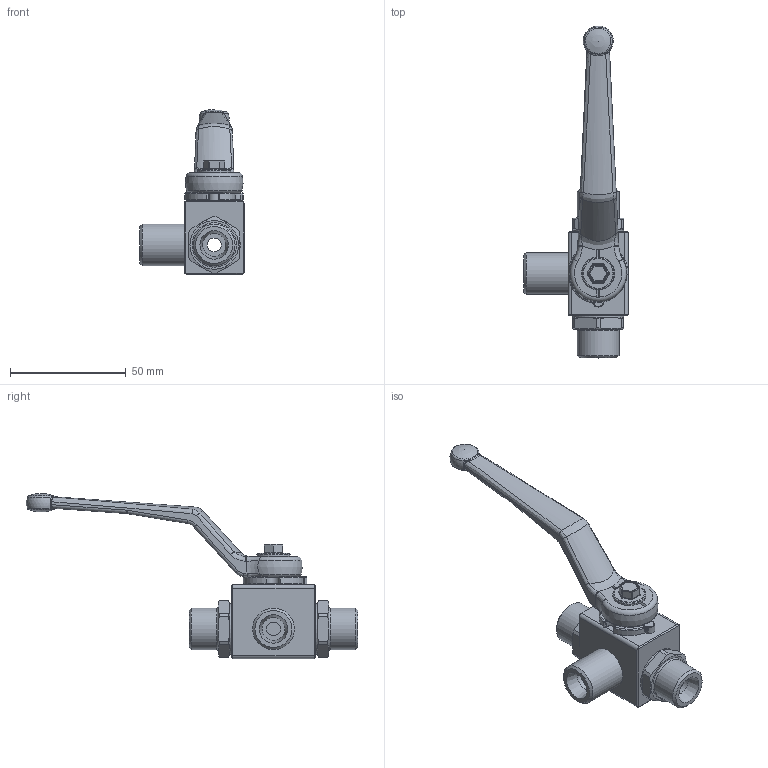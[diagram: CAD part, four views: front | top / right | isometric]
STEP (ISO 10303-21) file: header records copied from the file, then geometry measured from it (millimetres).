
FILE_DESCRIPTION( ( 'Unknown' ), '1' );
FILE_NAME( 'H:/PISTER/3D-MODELLE/BK3 stp/BK3 DN6 10S.stp', 'Unknown', ( 'Unknown' ), ( 'Unknown' ), 'PSStep 14.0', 'Unknown', ' ' );
FILE_SCHEMA( ( 'AUTOMOTIVE_DESIGN { 1 0 10303 214 1 1 1 1 }' ) );
Length unit declared in the file: millimetre
Products named in the file (10): Assem1; 06-008-059-oa7; 09-09-002; 58-28740-07-oa8; Griff_SW9; 58-0933-133; 04-006-089-oa9; 04-006-089-oa10; 04-006-039-oa11; 01-008-016-oa12
Assembly tree (9 placements, depth 2):
  Assem1
    06-008-059-oa7
    09-09-002
    58-28740-07-oa8
    Griff_SW9
    58-0933-133
    04-006-089-oa9
    04-006-089-oa10
    04-006-039-oa11
    01-008-016-oa12
Bounding box: 45.2 x 143.5 x 71.4 mm (x, y, z)
Volume: 32583 mm3; surface area: 23537.6 mm2
Topology: 9 solids, 9 shells, 387 faces, 953 edges, 574 vertices
Faces by surface type: cylinder 130, plane 125, bspline 42, torus 40, cone 30, sphere 20
Full cylindrical faces by diameter (mm): 4.134 x1, 4.98 x1, 5 x1, 6 x3, 10 x3, 14 x2, 14.3 x1, 18 x4, 22 x2, 22.5 x2
Entity records: 15776 total; most frequent: CARTESIAN_POINT 3953, DIRECTION 1841, ORIENTED_EDGE 1708, EDGE_CURVE 854, AXIS2_PLACEMENT_3D 750, VERTEX_POINT 547, EDGE_LOOP 466, FACE_OUTER_BOUND 419
